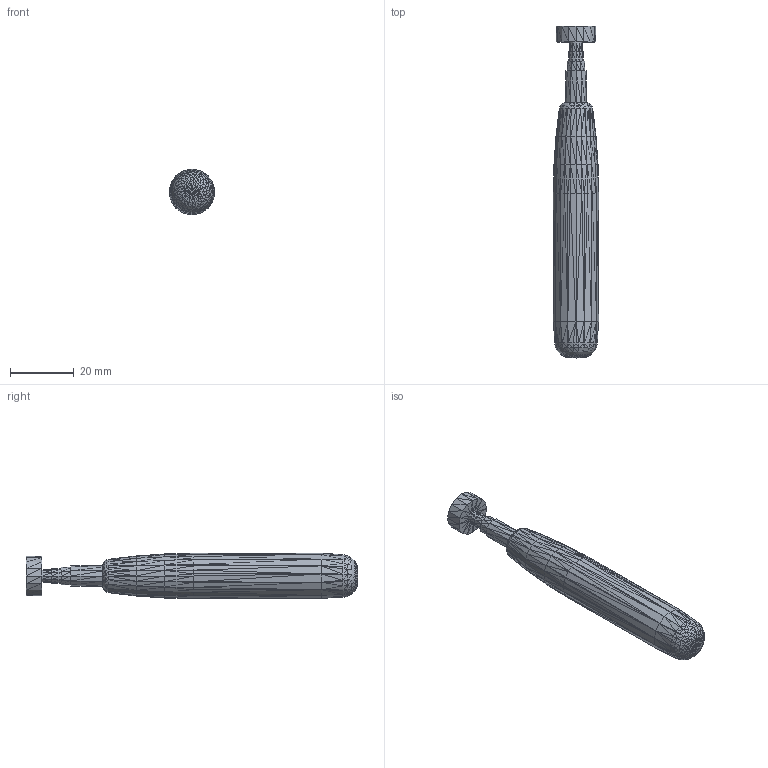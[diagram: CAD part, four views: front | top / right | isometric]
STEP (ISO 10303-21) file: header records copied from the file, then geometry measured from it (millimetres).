
FILE_DESCRIPTION((''),'2;1');
FILE_NAME('038013', '2025-11-21T11:26:42', (''), (''), 'ImageToStl.com STEP Converter','', '');
FILE_SCHEMA(('AUTOMOTIVE_DESIGN_CC2'));
Length unit declared in the file: metre
Products named in the file (1): product0
Bounding box: 14.22 x 104 x 14.22 mm (x, y, z)
Surface area: 4243.3 mm2 (no closed solid volume)
Topology: 0 solids, 1094 shells, 1094 faces, 3282 edges, 549 vertices
Faces by surface type: plane 1094
Entity records: 25194 total; most frequent: DIRECTION 5472, ORIENTED_EDGE 3282, EDGE_CURVE 3282, LINE 3282, VECTOR 3282, AXIS2_PLACEMENT_3D 1095, FACE_SURFACE 1094, PLANE 1094
